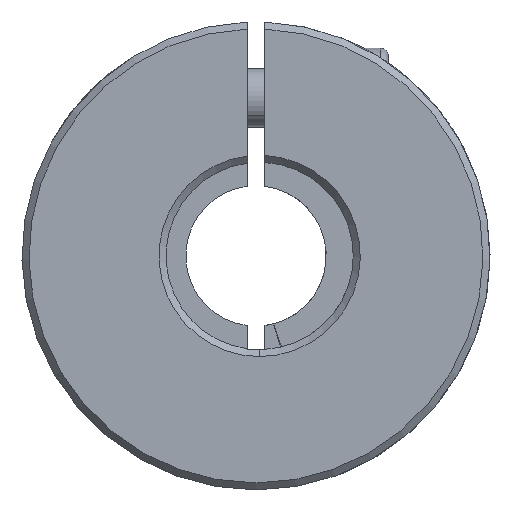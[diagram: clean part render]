
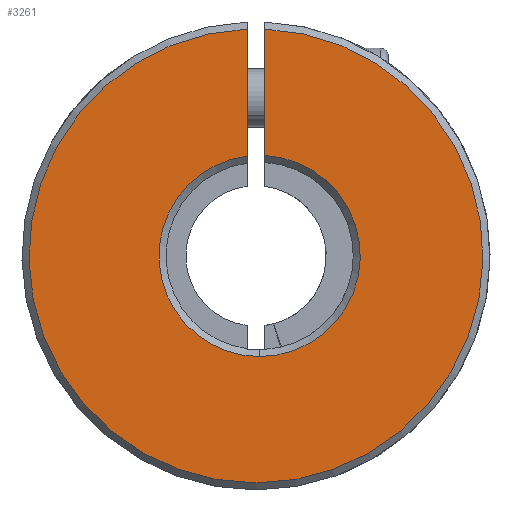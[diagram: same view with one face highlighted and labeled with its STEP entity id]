
A CAD part, front view. The second image highlights one B-rep face of the part: STEP entity #3261.
In plain terms, the highlighted planar face has unit normal (0, -1, 0).
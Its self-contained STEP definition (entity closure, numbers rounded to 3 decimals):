
#161 = CARTESIAN_POINT ( 'NONE',  ( 0., -30., 0. ) ) ;
#364 = EDGE_CURVE ( 'NONE', #1134, #1276, #1619, .T. ) ;
#942 = CARTESIAN_POINT ( 'NONE',  ( 0.75, -30., 8.589 ) ) ;
#970 = DIRECTION ( 'NONE',  ( 0., 0., 1. ) ) ;
#1000 = PLANE ( 'NONE',  #3704 ) ;
#1016 = CARTESIAN_POINT ( 'NONE',  ( 0.75, -30., 19.385 ) ) ;
#1030 = DIRECTION ( 'NONE',  ( 0., 1., 0. ) ) ;
#1063 = AXIS2_PLACEMENT_3D ( 'NONE', #4732, #1030, #2443 ) ;
#1111 = DIRECTION ( 'NONE',  ( 0., 0., 1. ) ) ;
#1134 = VERTEX_POINT ( 'NONE', #2084 ) ;
#1276 = VERTEX_POINT ( 'NONE', #2239 ) ;
#1311 = EDGE_LOOP ( 'NONE', ( #5733, #4267, #4542, #1368, #4629 ) ) ;
#1368 = ORIENTED_EDGE ( 'NONE', *, *, #364, .T. ) ;
#1421 = CARTESIAN_POINT ( 'NONE',  ( 0.314, -30., 0. ) ) ;
#1543 = CIRCLE ( 'NONE', #5828, 19.4 ) ;
#1619 = LINE ( 'NONE', #5338, #4992 ) ;
#1951 = EDGE_CURVE ( 'NONE', #5011, #3310, #3879, .T. ) ;
#1978 = FACE_OUTER_BOUND ( 'NONE', #1311, .T. ) ;
#2084 = CARTESIAN_POINT ( 'NONE',  ( -0.75, -30., 8.534 ) ) ;
#2223 = EDGE_CURVE ( 'NONE', #1276, #5011, #1543, .T. ) ;
#2239 = CARTESIAN_POINT ( 'NONE',  ( -0.75, -30., 19.385 ) ) ;
#2321 = VECTOR ( 'NONE', #3019, 1000. ) ;
#2443 = DIRECTION ( 'NONE',  ( 0., 0., 1. ) ) ;
#2478 = CARTESIAN_POINT ( 'NONE',  ( 0.75, -30., -8. ) ) ;
#2629 = AXIS2_PLACEMENT_3D ( 'NONE', #1421, #3716, #5572 ) ;
#2855 = DIRECTION ( 'NONE',  ( 0., -1., 0. ) ) ;
#3019 = DIRECTION ( 'NONE',  ( 0., 0., -1. ) ) ;
#3261 = ADVANCED_FACE ( 'NONE', ( #1978 ), #1000, .F. ) ;
#3267 = EDGE_CURVE ( 'NONE', #3310, #3529, #3997, .T. ) ;
#3310 = VERTEX_POINT ( 'NONE', #942 ) ;
#3529 = VERTEX_POINT ( 'NONE', #4966 ) ;
#3704 = AXIS2_PLACEMENT_3D ( 'NONE', #5609, #3781, #970 ) ;
#3716 = DIRECTION ( 'NONE',  ( 0., 1., 0. ) ) ;
#3718 = EDGE_CURVE ( 'NONE', #3529, #1134, #4001, .T. ) ;
#3781 = DIRECTION ( 'NONE',  ( 0., 1., 0. ) ) ;
#3879 = LINE ( 'NONE', #2478, #2321 ) ;
#3997 = CIRCLE ( 'NONE', #1063, 8.6 ) ;
#4001 = CIRCLE ( 'NONE', #2629, 8.6 ) ;
#4267 = ORIENTED_EDGE ( 'NONE', *, *, #3267, .T. ) ;
#4443 = DIRECTION ( 'NONE',  ( 0., 0., 1. ) ) ;
#4542 = ORIENTED_EDGE ( 'NONE', *, *, #3718, .T. ) ;
#4629 = ORIENTED_EDGE ( 'NONE', *, *, #2223, .T. ) ;
#4732 = CARTESIAN_POINT ( 'NONE',  ( 0.314, -30., 0. ) ) ;
#4966 = CARTESIAN_POINT ( 'NONE',  ( 0.314, -30., -8.6 ) ) ;
#4992 = VECTOR ( 'NONE', #4443, 1000. ) ;
#5011 = VERTEX_POINT ( 'NONE', #1016 ) ;
#5338 = CARTESIAN_POINT ( 'NONE',  ( -0.75, -30., -8. ) ) ;
#5572 = DIRECTION ( 'NONE',  ( 0., 0., 1. ) ) ;
#5609 = CARTESIAN_POINT ( 'NONE',  ( 0., -30., 0. ) ) ;
#5733 = ORIENTED_EDGE ( 'NONE', *, *, #1951, .T. ) ;
#5828 = AXIS2_PLACEMENT_3D ( 'NONE', #161, #2855, #1111 ) ;
